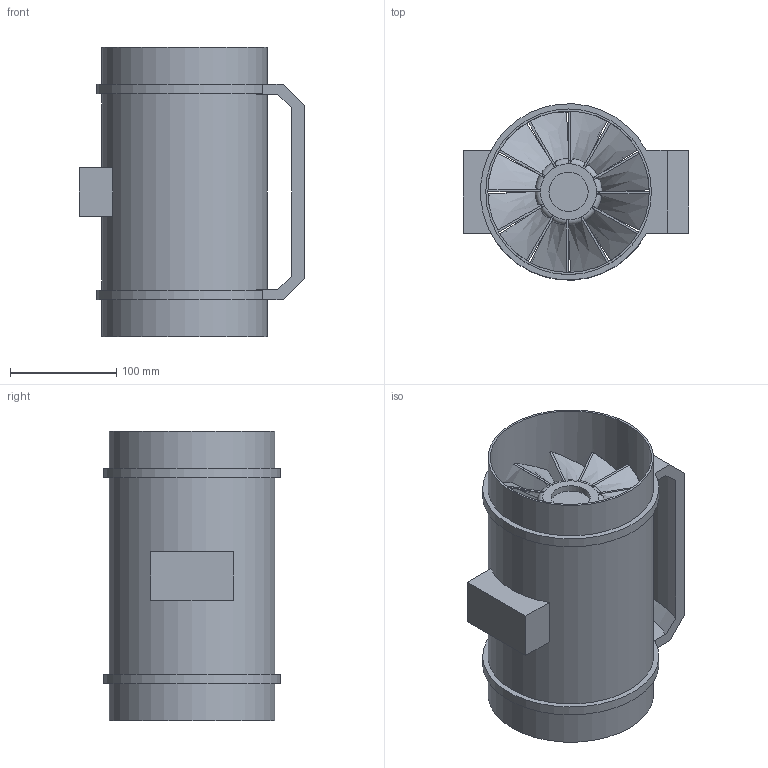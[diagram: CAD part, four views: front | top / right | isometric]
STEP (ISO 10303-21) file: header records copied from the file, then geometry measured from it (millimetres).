
FILE_DESCRIPTION(/* description */ (''),/* implementation_level */ '2;1');
FILE_NAME(/* name */ 'Z:\Output\MV_160-06054-001.stp',/* time_stamp */ '2017-07-19T18:02:55+02:00',/* author */ ('engineering1'),/* organization */ (''),/* preprocessor_version */ 'ST-DEVELOPER v16.5',/* originating_system */ 'Autodesk Inventor 2017',/* authorisation */ '');
FILE_SCHEMA (('AUTOMOTIVE_DESIGN { 1 0 10303 214 3 1 1 }'));
Length unit declared in the file: millimetre
Products named in the file (1): MV-1USER
Bounding box: 212 x 165.75 x 273 mm (x, y, z)
Volume: 2364736.6 mm3; surface area: 477393.6 mm2
Topology: 1 solids, 1 shells, 285 faces, 725 edges, 470 vertices
Faces by surface type: plane 222, bspline 36, torus 13, cylinder 12, cone 2
Full cylindrical faces by diameter (mm): 36.857 x1, 50.857 x1, 62.857 x1, 116 x1, 152 x1, 156 x3
Entity records: 9567 total; most frequent: CARTESIAN_POINT 2537, ORIENTED_EDGE 1420, DIRECTION 1278, EDGE_CURVE 710, VERTEX_POINT 466, LINE 464, VECTOR 464, AXIS2_PLACEMENT_3D 407
